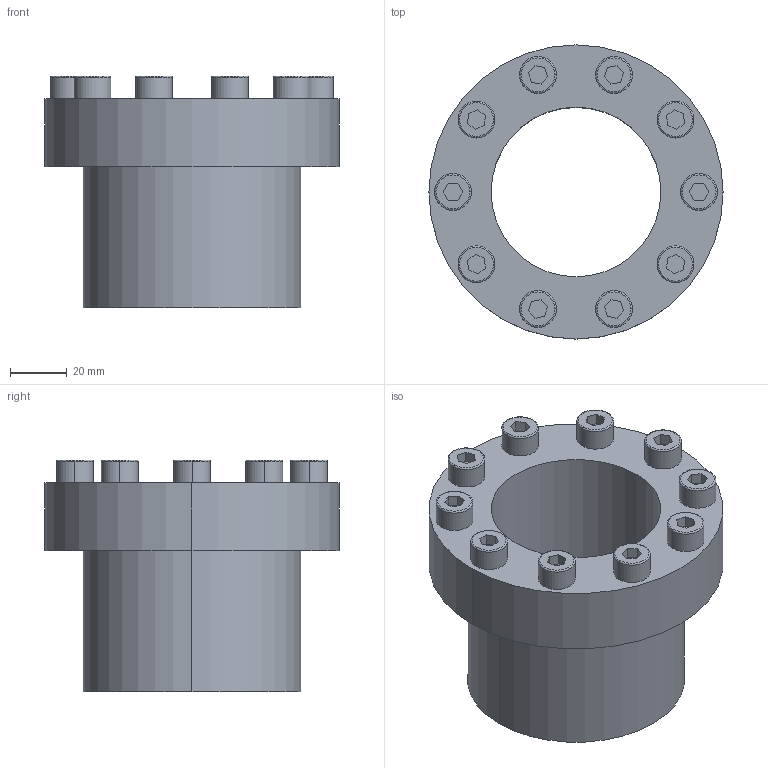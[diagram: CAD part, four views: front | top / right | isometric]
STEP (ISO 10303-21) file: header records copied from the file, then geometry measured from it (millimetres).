
FILE_DESCRIPTION (( 'STEP AP203' ), '1' );
FILE_NAME ('PL-C 60-77.STEP', '2021-10-22T08:45:52', ( '' ), ( '' ), 'SwSTEP 2.0', 'SolidWorks 2018', '' );
FILE_SCHEMA (( 'CONFIG_CONTROL_DESIGN' ));
Length unit declared in the file: millimetre
Products named in the file (1): PL-C 60-77
Bounding box: 104 x 104 x 82 mm (x, y, z)
Volume: 235620 mm3; surface area: 49198.6 mm2
Topology: 1 solids, 1 shells, 129 faces, 298 edges, 192 vertices
Faces by surface type: plane 83, cylinder 26, torus 20
Entity records: 3725 total; most frequent: DIRECTION 650, CARTESIAN_POINT 620, ORIENTED_EDGE 596, EDGE_CURVE 298, AXIS2_PLACEMENT_3D 222, LINE 206, VECTOR 206, VERTEX_POINT 192
